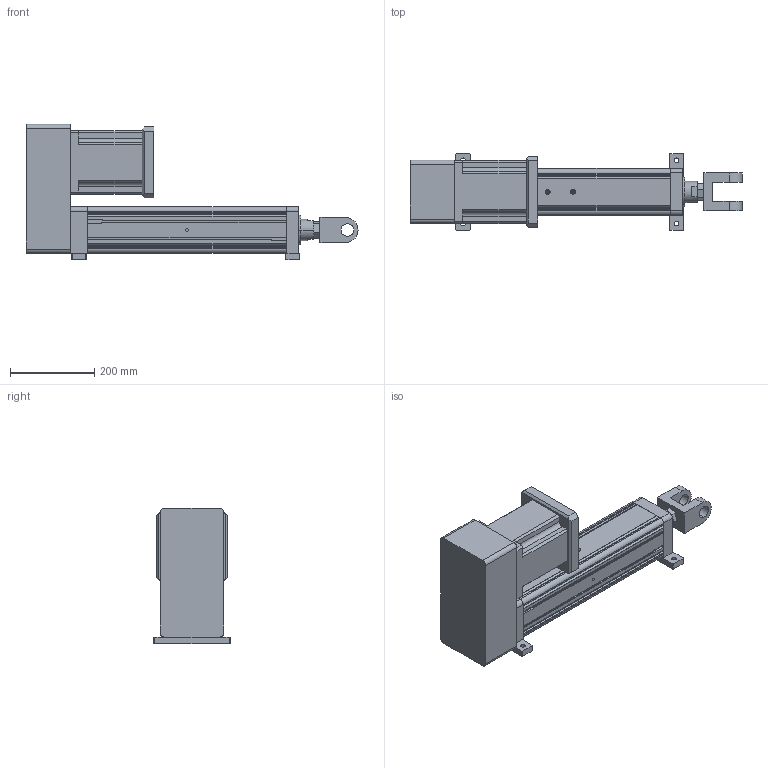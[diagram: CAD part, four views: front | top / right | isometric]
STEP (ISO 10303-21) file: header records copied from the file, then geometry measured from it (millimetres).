
FILE_DESCRIPTION (( 'STEP AP203' ), '1' );
FILE_NAME ('YRJ110-L300-H2K4.STEP', '2020-01-04T06:03:47', ( 'User' ), ( 'China' ), 'SwSTEP 2.0', 'SolidWorks 2016', '' );
FILE_SCHEMA (( 'CONFIG_CONTROL_DESIGN' ));
Length unit declared in the file: millimetre
Products named in the file (7): 142熬厒儂; YRJ110-L300-H2K4; H2-110-2; 萇儂碟-110; 095-100俴最倰第; H2-110-1; K4-110
Assembly tree (6 placements, depth 2):
  YRJ110-L300-H2K4
    095-100俴最倰第
    萇儂碟-110
    142熬厒儂
    K4-110
    H2-110-1
    H2-110-2
Bounding box: 786 x 180 x 320 mm (x, y, z)
Volume: 12175833.3 mm3; surface area: 953898.9 mm2
Topology: 6 solids, 6 shells, 340 faces, 936 edges, 605 vertices
Faces by surface type: plane 197, cylinder 116, cone 27
Entity records: 11776 total; most frequent: CARTESIAN_POINT 2214, DIRECTION 1843, ORIENTED_EDGE 1840, EDGE_CURVE 920, LINE 651, VECTOR 651, VERTEX_POINT 605, AXIS2_PLACEMENT_3D 596
